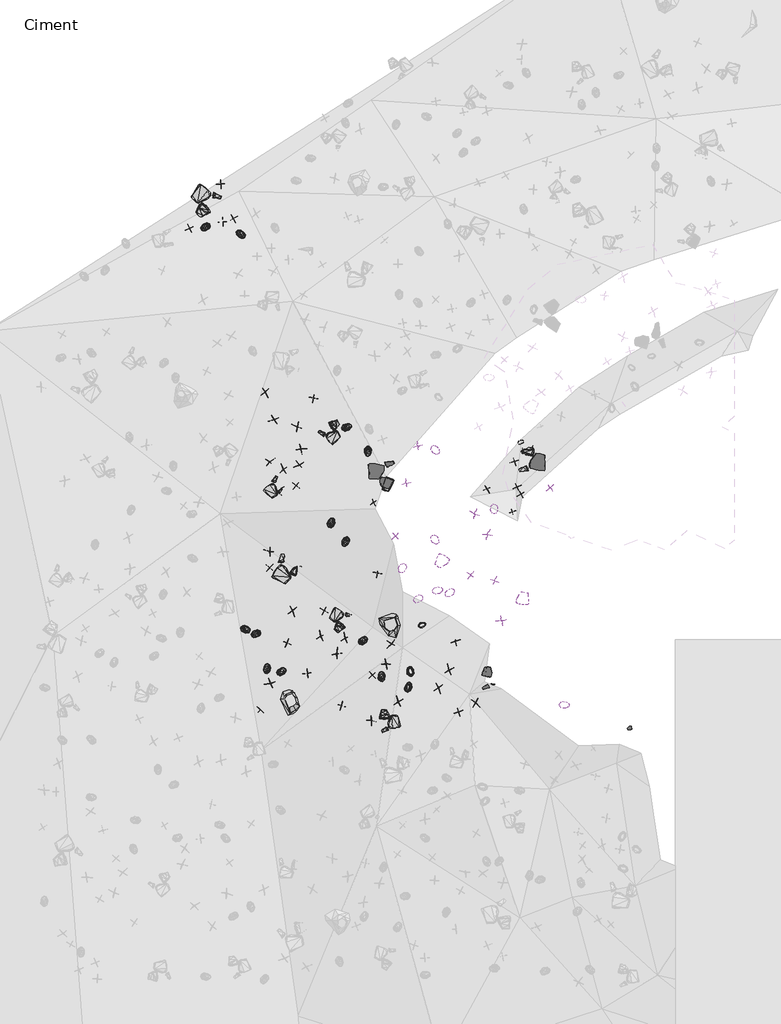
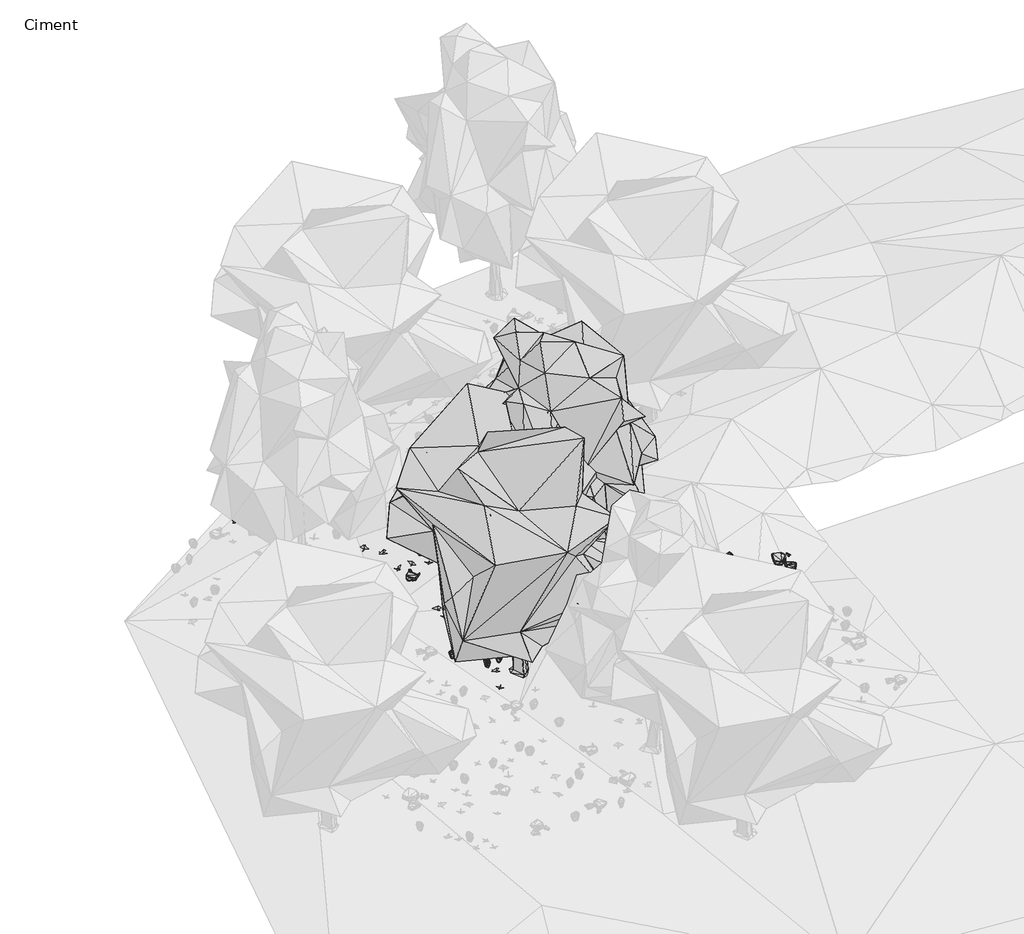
# One storey, part 21 of 30: 89 geographic elements.
"""IFC4 building model written with IfcOpenShell, lengths in millimetres."""

from ifc_helpers import new_model, si_unit, origin, place, context, project, spatial, transform, mapped, element, save
from components import enscape_assetdefinition_bush_025_fern_enscape_5718bf32, enscape_assetdefinition_bush_054_plant_09_version_2_enscape_7b546a12, enscape_assetdefinition_bush_062_plant_09_version_3_enscape_ccf8c8eb, enscape_assetdefinition_deciduous_tree_024_elm_enscape_8f9d8ef3, enscape_assetdefinition_deciduous_tree_029_elm_enscape_e4c49baf, enscape_assetdefinition_stone_013_group_enscape_516da325, enscape_assetdefinition_stone_013_group_enscape_db9b3e91

model = new_model("IFC4")

# Units and contexts
model_context = context("Model", 3, world=origin())
ifc_project = project(units=[si_unit("LENGTHUNIT", "METRE", prefix="MILLI")], contexts=[model_context])

# Site, building, storey
site = spatial("IfcSite", under=ifc_project)
building = spatial("IfcBuilding", under=site)
storey = spatial("IfcBuildingStorey", under=building, Name="Ciment", Elevation=-1500.0)

# Geographic elements
placement = place(None, origin())
enscape_assetdefinition_bush_025_fern_enscape_shape = enscape_assetdefinition_bush_025_fern_enscape_5718bf32(model_context)
element("IfcGeographicElement", 1, ObjectType="Enscape AssetDefinition - Bush 025 Fern : Enscape AssetDefinition - Bush 025 Fern", at=placement, inside=storey, context=model_context, shape_type="MappedRepresentation", body=[
    mapped(enscape_assetdefinition_bush_025_fern_enscape_shape, transform((-11638.1196976, 4541.864872, -223.0308056), x_axis=(-0.24635304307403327, -0.9691801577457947, 0.0), y_axis=(0.9691801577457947, -0.24635304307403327, 0.0), z_axis=(0.0, 0.0, 1.0))),
])
element("IfcGeographicElement", 2, ObjectType="Enscape AssetDefinition - Bush 025 Fern : Enscape AssetDefinition - Bush 025 Fern", at=placement, inside=storey, context=model_context, shape_type="MappedRepresentation", body=[
    mapped(enscape_assetdefinition_bush_025_fern_enscape_shape, transform((-11090.5303955, 3009.7484589, -382.9401731), x_axis=(0.9147308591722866, 0.4040636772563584, 0.0), y_axis=(-0.4040636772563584, 0.9147308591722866, 0.0), z_axis=(0.0, 0.0, 1.0))),
])
element("IfcGeographicElement", 3, ObjectType="Enscape AssetDefinition - Bush 025 Fern : Enscape AssetDefinition - Bush 025 Fern", at=placement, inside=storey, context=model_context, shape_type="MappedRepresentation", body=[
    mapped(enscape_assetdefinition_bush_025_fern_enscape_shape, transform((-13133.5659027, 8365.322113, -920.8834171), x_axis=(0.8603638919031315, 0.5096802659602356, 0.0), y_axis=(-0.5096802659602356, 0.8603638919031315, 0.0), z_axis=(0.0, 0.0, 1.0))),
])
element("IfcGeographicElement", 4, ObjectType="Enscape AssetDefinition - Bush 025 Fern : Enscape AssetDefinition - Bush 025 Fern", at=placement, inside=storey, context=model_context, shape_type="MappedRepresentation", body=[
    mapped(enscape_assetdefinition_bush_025_fern_enscape_shape, transform((-12569.9949265, 7704.8625946, -598.0372429), x_axis=(0.16812598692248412, -0.9857655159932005, 0.0), y_axis=(0.9857655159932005, 0.16812598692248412, 0.0), z_axis=(0.0, 0.0, 1.0))),
])
element("IfcGeographicElement", 5, ObjectType="Enscape AssetDefinition - Bush 025 Fern : Enscape AssetDefinition - Bush 025 Fern", at=placement, inside=storey, context=model_context, shape_type="MappedRepresentation", body=[
    mapped(enscape_assetdefinition_bush_025_fern_enscape_shape, transform((-10668.3654785, 3943.8591003, -231.1249971), x_axis=(0.900680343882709, 0.4344823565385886, 0.0), y_axis=(-0.4344823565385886, 0.900680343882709, 0.0), z_axis=(0.0, 0.0, 1.0))),
])
element("IfcGeographicElement", 6, ObjectType="Enscape AssetDefinition - Bush 025 Fern : Enscape AssetDefinition - Bush 025 Fern", at=placement, inside=storey, context=model_context, shape_type="MappedRepresentation", body=[
    mapped(enscape_assetdefinition_bush_025_fern_enscape_shape, transform((-15879.2867661, 2886.2705231, -1958.9015245), x_axis=(0.9770016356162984, -0.21323180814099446, 0.0), y_axis=(0.21323180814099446, 0.9770016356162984, 0.0), z_axis=(0.0, 0.0, 1.0))),
])
element("IfcGeographicElement", 7, ObjectType="Enscape AssetDefinition - Bush 025 Fern : Enscape AssetDefinition - Bush 025 Fern", at=placement, inside=storey, context=model_context, shape_type="MappedRepresentation", body=[
    mapped(enscape_assetdefinition_bush_025_fern_enscape_shape, transform((-11212.2249603, 3715.5036926, -297.8234291), x_axis=(-0.6952899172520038, -0.7187293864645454, 0.0), y_axis=(0.7187293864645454, -0.6952899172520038, 0.0), z_axis=(0.0, 0.0, 1.0))),
])
element("IfcGeographicElement", 8, ObjectType="Enscape AssetDefinition - Bush 025 Fern : Enscape AssetDefinition - Bush 025 Fern", at=placement, inside=storey, context=model_context, shape_type="MappedRepresentation", body=[
    mapped(enscape_assetdefinition_bush_025_fern_enscape_shape, transform((-10336.2998962, 3888.3247375, -216.1710262), x_axis=(0.632105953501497, 0.7748819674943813, 0.0), y_axis=(-0.7748819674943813, 0.632105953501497, 0.0), z_axis=(0.0, 0.0, 1.0))),
])
element("IfcGeographicElement", 9, ObjectType="Enscape AssetDefinition - Bush 025 Fern : Enscape AssetDefinition - Bush 025 Fern", at=placement, inside=storey, context=model_context, shape_type="MappedRepresentation", body=[
    mapped(enscape_assetdefinition_bush_025_fern_enscape_shape, transform((-16975.8300781, 13787.0645523, -2876.6665459), x_axis=(-0.7856103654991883, -0.6187215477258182, 0.0), y_axis=(0.6187215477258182, -0.7856103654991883, 0.0), z_axis=(0.0, 0.0, 1.0))),
])
element("IfcGeographicElement", 10, ObjectType="Enscape AssetDefinition - Bush 025 Fern : Enscape AssetDefinition - Bush 025 Fern", at=placement, inside=storey, context=model_context, shape_type="MappedRepresentation", body=[
    mapped(enscape_assetdefinition_bush_025_fern_enscape_shape, transform((-15608.7293625, 2770.6663609, -1889.3635273), x_axis=(-0.7920188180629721, -0.6104966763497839, 0.0), y_axis=(0.6104966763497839, -0.7920188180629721, 0.0), z_axis=(0.0, 0.0, 1.0))),
])
element("IfcGeographicElement", 11, ObjectType="Enscape AssetDefinition - Bush 025 Fern : Enscape AssetDefinition - Bush 025 Fern", at=placement, inside=storey, context=model_context, shape_type="MappedRepresentation", body=[
    mapped(enscape_assetdefinition_bush_025_fern_enscape_shape, transform((-12190.8473969, 1620.2697754, -739.0025854), x_axis=(-0.13337993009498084, 0.9910649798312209, 0.0), y_axis=(-0.9910649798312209, -0.13337993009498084, 0.0), z_axis=(0.0, 0.0, 1.0))),
])
element("IfcGeographicElement", 12, ObjectType="Enscape AssetDefinition - Bush 025 Fern : Enscape AssetDefinition - Bush 025 Fern", at=placement, inside=storey, context=model_context, shape_type="MappedRepresentation", body=[
    mapped(enscape_assetdefinition_bush_025_fern_enscape_shape, transform((-9148.2543945, 6143.3615685, -295.8436012), x_axis=(0.18891251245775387, -0.9819939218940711, 0.0), y_axis=(0.9819939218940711, 0.18891251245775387, 0.0), z_axis=(0.0, 0.0, 1.0))),
])
element("IfcGeographicElement", 13, ObjectType="Enscape AssetDefinition - Bush 025 Fern : Enscape AssetDefinition - Bush 025 Fern", at=placement, inside=storey, context=model_context, shape_type="MappedRepresentation", body=[
    mapped(enscape_assetdefinition_bush_025_fern_enscape_shape, transform((-10737.4744415, 7742.1350479, -123.6081123), x_axis=(0.7259865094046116, -0.6877089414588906, 0.0), y_axis=(0.6877089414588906, 0.7259865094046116, 0.0), z_axis=(0.0, 0.0, 1.0))),
])
element("IfcGeographicElement", 14, ObjectType="Enscape AssetDefinition - Bush 025 Fern : Enscape AssetDefinition - Bush 025 Fern", at=placement, inside=storey, context=model_context, shape_type="MappedRepresentation", body=[
    mapped(enscape_assetdefinition_bush_025_fern_enscape_shape, transform((-12692.2941208, 2590.3644562, -1071.7153549), x_axis=(0.6515939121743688, 0.7585679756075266, 0.0), y_axis=(-0.7585679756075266, 0.6515939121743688, 0.0), z_axis=(0.0, 0.0, 1.0))),
])
element("IfcGeographicElement", 15, ObjectType="Enscape AssetDefinition - Bush 025 Fern : Enscape AssetDefinition - Bush 025 Fern", at=placement, inside=storey, context=model_context, shape_type="MappedRepresentation", body=[
    mapped(enscape_assetdefinition_bush_025_fern_enscape_shape, transform((-11466.1960602, 1334.0778351, -589.1283751), x_axis=(0.18204377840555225, 0.9832904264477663, 0.0), y_axis=(-0.9832904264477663, 0.18204377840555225, 0.0), z_axis=(0.0, 0.0, 1.0))),
])
element("IfcGeographicElement", 16, ObjectType="Enscape AssetDefinition - Bush 025 Fern : Enscape AssetDefinition - Bush 025 Fern", at=placement, inside=storey, context=model_context, shape_type="MappedRepresentation", body=[
    mapped(enscape_assetdefinition_bush_025_fern_enscape_shape, transform((-15293.551445, 1834.1273069, -1846.912384), x_axis=(-0.011832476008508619, 0.9999299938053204, 0.0), y_axis=(-0.9999299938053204, -0.011832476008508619, 0.0), z_axis=(0.0, 0.0, 1.0))),
])
element("IfcGeographicElement", 17, ObjectType="Enscape AssetDefinition - Bush 025 Fern : Enscape AssetDefinition - Bush 025 Fern", at=placement, inside=storey, context=model_context, shape_type="MappedRepresentation", body=[
    mapped(enscape_assetdefinition_bush_025_fern_enscape_shape, transform((-13553.2474518, 5780.8337212, -850.2188921), x_axis=(0.1814762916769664, 0.9833953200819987, 0.0), y_axis=(-0.9833953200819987, 0.1814762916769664, 0.0), z_axis=(0.0, 0.0, 1.0))),
])
element("IfcGeographicElement", 18, ObjectType="Enscape AssetDefinition - Bush 025 Fern : Enscape AssetDefinition - Bush 025 Fern", at=placement, inside=storey, context=model_context, shape_type="MappedRepresentation", body=[
    mapped(enscape_assetdefinition_bush_025_fern_enscape_shape, transform((-8413.4521484, 7964.8332596, -311.1704588), x_axis=(0.9048403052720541, 0.4257511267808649, 0.0), y_axis=(-0.4257511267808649, 0.9048403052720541, 0.0), z_axis=(0.0, 0.0, 1.0))),
])
element("IfcGeographicElement", 19, ObjectType="Enscape AssetDefinition - Bush 025 Fern : Enscape AssetDefinition - Bush 025 Fern", at=placement, inside=storey, context=model_context, shape_type="MappedRepresentation", body=[
    mapped(enscape_assetdefinition_bush_025_fern_enscape_shape, transform((-11414.8960114, 1759.8763704, -545.861125), x_axis=(-0.30335058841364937, 0.9528790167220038, 0.0), y_axis=(-0.9528790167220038, -0.30335058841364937, 0.0), z_axis=(0.0, 0.0, 1.0))),
])
element("IfcGeographicElement", 20, ObjectType="Enscape AssetDefinition - Bush 025 Fern : Enscape AssetDefinition - Bush 025 Fern", at=placement, inside=storey, context=model_context, shape_type="MappedRepresentation", body=[
    mapped(enscape_assetdefinition_bush_025_fern_enscape_shape, transform((-10749.0777969, 5313.3511543, -55.5239916), x_axis=(0.5857704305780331, -0.8104770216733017, 0.0), y_axis=(0.8104770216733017, 0.5857704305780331, 0.0), z_axis=(0.0, 0.0, 1.0))),
])
element("IfcGeographicElement", 21, ObjectType="Enscape AssetDefinition - Bush 025 Fern : Enscape AssetDefinition - Bush 025 Fern", at=placement, inside=storey, context=model_context, shape_type="MappedRepresentation", body=[
    mapped(enscape_assetdefinition_bush_025_fern_enscape_shape, transform((-7237.8849983, 841.550827, -89.4165039), x_axis=(0.9980280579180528, 0.06276938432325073, 0.0), y_axis=(-0.06276938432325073, 0.9980280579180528, 0.0), z_axis=(0.0, 0.0, 1.0))),
])
element("IfcGeographicElement", 22, ObjectType="Enscape AssetDefinition - Bush 025 Fern : Enscape AssetDefinition - Bush 025 Fern", at=placement, inside=storey, context=model_context, shape_type="MappedRepresentation", body=[
    mapped(enscape_assetdefinition_bush_025_fern_enscape_shape, transform((-16005.6838989, 13585.8154297, -2682.0106506), x_axis=(0.8829453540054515, -0.46947577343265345, 0.0), y_axis=(0.46947577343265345, 0.8829453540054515, 0.0), z_axis=(0.0, 0.0, 1.0))),
])
element("IfcGeographicElement", 23, ObjectType="Enscape AssetDefinition - Bush 025 Fern : Enscape AssetDefinition - Bush 025 Fern", at=placement, inside=storey, context=model_context, shape_type="MappedRepresentation", body=[
    mapped(enscape_assetdefinition_bush_025_fern_enscape_shape, transform((-14899.8289108, 1750.6200075, -1741.645813), x_axis=(0.7998441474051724, 0.6002077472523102, 0.0), y_axis=(-0.6002077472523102, 0.7998441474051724, 0.0), z_axis=(0.0, 0.0, 1.0))),
])
element("IfcGeographicElement", 24, ObjectType="Enscape AssetDefinition - Bush 025 Fern : Enscape AssetDefinition - Bush 025 Fern", at=placement, inside=storey, context=model_context, shape_type="MappedRepresentation", body=[
    mapped(enscape_assetdefinition_bush_025_fern_enscape_shape, transform((-13175.6210327, 5259.3193054, -809.4972372), x_axis=(-0.3251526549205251, -0.9456615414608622, 0.0), y_axis=(0.9456615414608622, -0.3251526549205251, 0.0), z_axis=(0.0, 0.0, 1.0))),
])
enscape_assetdefinition_bush_054_plant_09_version_2_enscape_shape = enscape_assetdefinition_bush_054_plant_09_version_2_enscape_7b546a12(model_context)
element("IfcGeographicElement", 25, ObjectType="Enscape AssetDefinition - Bush 054 Plant 09, Version 2 : Enscape AssetDefinition - Bush 054 Plant 09, Version 2", at=placement, inside=storey, context=model_context, shape_type="MappedRepresentation", body=[
    mapped(enscape_assetdefinition_bush_054_plant_09_version_2_enscape_shape, transform((-16555.5934906, 14944.6992874, -2999.9995232), x_axis=(0.9948430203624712, 0.1014266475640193, 0.0), y_axis=(-0.1014266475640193, 0.9948430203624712, 0.0), z_axis=(0.0, 0.0, 1.0))),
])
element("IfcGeographicElement", 26, ObjectType="Enscape AssetDefinition - Bush 054 Plant 09, Version 2 : Enscape AssetDefinition - Bush 054 Plant 09, Version 2", at=placement, inside=storey, context=model_context, shape_type="MappedRepresentation", body=[
    mapped(enscape_assetdefinition_bush_054_plant_09_version_2_enscape_shape, transform((-17399.0974426, 13746.1414337, -2927.5593758), x_axis=(0.891467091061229, 0.4530854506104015, 0.0), y_axis=(-0.4530854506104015, 0.891467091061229, 0.0), z_axis=(0.0, 0.0, 1.0))),
])
element("IfcGeographicElement", 27, ObjectType="Enscape AssetDefinition - Bush 054 Plant 09, Version 2 : Enscape AssetDefinition - Bush 054 Plant 09, Version 2", at=placement, inside=storey, context=model_context, shape_type="MappedRepresentation", body=[
    mapped(enscape_assetdefinition_bush_054_plant_09_version_2_enscape_shape, transform((-10103.2600403, 652.9922485, -558.287859), x_axis=(-0.3648329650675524, 0.9310729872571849, 0.0), y_axis=(-0.9310729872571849, -0.3648329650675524, 0.0), z_axis=(0.0, 0.0, 1.0))),
])
element("IfcGeographicElement", 28, ObjectType="Enscape AssetDefinition - Bush 054 Plant 09, Version 2 : Enscape AssetDefinition - Bush 054 Plant 09, Version 2", at=placement, inside=storey, context=model_context, shape_type="MappedRepresentation", body=[
    mapped(enscape_assetdefinition_bush_054_plant_09_version_2_enscape_shape, transform((-15233.1037521, 4560.1158142, -1699.0650892), x_axis=(0.7821400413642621, -0.6231026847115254, 0.0), y_axis=(0.6231026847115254, 0.7821400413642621, 0.0), z_axis=(0.0, 0.0, 1.0))),
])
element("IfcGeographicElement", 29, ObjectType="Enscape AssetDefinition - Bush 054 Plant 09, Version 2 : Enscape AssetDefinition - Bush 054 Plant 09, Version 2", at=placement, inside=storey, context=model_context, shape_type="MappedRepresentation", body=[
    mapped(enscape_assetdefinition_bush_054_plant_09_version_2_enscape_shape, transform((-14038.4750366, 9147.3197937, -1400.3118277), x_axis=(0.12002277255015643, 0.9927711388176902, 0.0), y_axis=(-0.9927711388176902, 0.12002277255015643, 0.0), z_axis=(0.0, 0.0, 1.0))),
])
element("IfcGeographicElement", 30, ObjectType="Enscape AssetDefinition - Bush 054 Plant 09, Version 2 : Enscape AssetDefinition - Bush 054 Plant 09, Version 2", at=placement, inside=storey, context=model_context, shape_type="MappedRepresentation", body=[
    mapped(enscape_assetdefinition_bush_054_plant_09_version_2_enscape_shape, transform((-8588.8900757, 7437.669754, -366.4653301), x_axis=(-0.3494669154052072, 0.9369487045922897, 0.0), y_axis=(-0.9369487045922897, -0.3494669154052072, 0.0), z_axis=(0.0, 0.0, 1.0))),
])
element("IfcGeographicElement", 31, ObjectType="Enscape AssetDefinition - Bush 054 Plant 09, Version 2 : Enscape AssetDefinition - Bush 054 Plant 09, Version 2", at=placement, inside=storey, context=model_context, shape_type="MappedRepresentation", body=[
    mapped(enscape_assetdefinition_bush_054_plant_09_version_2_enscape_shape, transform((-14507.4453354, 6780.9333801, -1261.0417604), x_axis=(0.5905984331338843, 0.8069656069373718, 0.0), y_axis=(-0.8069656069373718, 0.5905984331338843, 0.0), z_axis=(0.0, 0.0, 1.0))),
])
element("IfcGeographicElement", 32, ObjectType="Enscape AssetDefinition - Bush 054 Plant 09, Version 2 : Enscape AssetDefinition - Bush 054 Plant 09, Version 2", at=placement, inside=storey, context=model_context, shape_type="MappedRepresentation", body=[
    mapped(enscape_assetdefinition_bush_054_plant_09_version_2_enscape_shape, transform((-8411.9548798, 6551.7253876, -354.6613455), x_axis=(-0.5446772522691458, 0.8386457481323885, 0.0), y_axis=(-0.8386457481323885, -0.5446772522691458, 0.0), z_axis=(0.0, 0.0, 1.0))),
])
element("IfcGeographicElement", 33, ObjectType="Enscape AssetDefinition - Bush 054 Plant 09, Version 2 : Enscape AssetDefinition - Bush 054 Plant 09, Version 2", at=placement, inside=storey, context=model_context, shape_type="MappedRepresentation", body=[
    mapped(enscape_assetdefinition_bush_054_plant_09_version_2_enscape_shape, transform((-15477.8966904, 720.9014893, -1951.6050816), x_axis=(-0.6479898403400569, -0.7616489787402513, 0.0), y_axis=(0.7616489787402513, -0.6479898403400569, 0.0), z_axis=(0.0, 0.0, 1.0))),
])
element("IfcGeographicElement", 34, ObjectType="Enscape AssetDefinition - Bush 054 Plant 09, Version 2 : Enscape AssetDefinition - Bush 054 Plant 09, Version 2", at=placement, inside=storey, context=model_context, shape_type="MappedRepresentation", body=[
    mapped(enscape_assetdefinition_bush_054_plant_09_version_2_enscape_shape, transform((-13746.8767166, 3392.9765224, -1342.6638842), x_axis=(0.4184931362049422, 0.9082199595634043, 0.0), y_axis=(-0.9082199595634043, 0.4184931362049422, 0.0), z_axis=(0.0, 0.0, 1.0))),
])
element("IfcGeographicElement", 35, ObjectType="Enscape AssetDefinition - Bush 054 Plant 09, Version 2 : Enscape AssetDefinition - Bush 054 Plant 09, Version 2", at=placement, inside=storey, context=model_context, shape_type="MappedRepresentation", body=[
    mapped(enscape_assetdefinition_bush_054_plant_09_version_2_enscape_shape, transform((-14750.3213882, 2523.6053467, -1662.9818678), x_axis=(-0.9413865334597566, 0.3373298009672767, 0.0), y_axis=(-0.3373298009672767, -0.9413865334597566, 0.0), z_axis=(0.0, 0.0, 1.0))),
])
element("IfcGeographicElement", 36, ObjectType="Enscape AssetDefinition - Bush 054 Plant 09, Version 2 : Enscape AssetDefinition - Bush 054 Plant 09, Version 2", at=placement, inside=storey, context=model_context, shape_type="MappedRepresentation", body=[
    mapped(enscape_assetdefinition_bush_054_plant_09_version_2_enscape_shape, transform((-16498.9624023, 13922.1611023, -2842.8559303), x_axis=(0.9959632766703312, 0.08976163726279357, 0.0), y_axis=(-0.08976163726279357, 0.9959632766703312, 0.0), z_axis=(0.0, 0.0, 1.0))),
])
element("IfcGeographicElement", 37, ObjectType="Enscape AssetDefinition - Bush 054 Plant 09, Version 2 : Enscape AssetDefinition - Bush 054 Plant 09, Version 2", at=placement, inside=storey, context=model_context, shape_type="MappedRepresentation", body=[
    mapped(enscape_assetdefinition_bush_054_plant_09_version_2_enscape_shape, transform((-16207.7026367, 14022.2568512, -2826.8532753), x_axis=(-0.8366235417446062, -0.5477782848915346, 0.0), y_axis=(0.5477782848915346, -0.8366235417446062, 0.0), z_axis=(0.0, 0.0, 1.0))),
])
element("IfcGeographicElement", 38, ObjectType="Enscape AssetDefinition - Bush 054 Plant 09, Version 2 : Enscape AssetDefinition - Bush 054 Plant 09, Version 2", at=placement, inside=storey, context=model_context, shape_type="MappedRepresentation", body=[
    mapped(enscape_assetdefinition_bush_054_plant_09_version_2_enscape_shape, transform((-11820.1847076, 5416.6183472, -236.6931438), x_axis=(0.6847195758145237, 0.7288066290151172, 0.0), y_axis=(-0.7288066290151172, 0.6847195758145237, 0.0), z_axis=(0.0, 0.0, 1.0))),
])
element("IfcGeographicElement", 39, ObjectType="Enscape AssetDefinition - Bush 054 Plant 09, Version 2 : Enscape AssetDefinition - Bush 054 Plant 09, Version 2", at=placement, inside=storey, context=model_context, shape_type="MappedRepresentation", body=[
    mapped(enscape_assetdefinition_bush_054_plant_09_version_2_enscape_shape, transform((-13274.6353149, 829.492569, -1163.4473801), x_axis=(-0.9716901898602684, 0.23625870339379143, 0.0), y_axis=(-0.23625870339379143, -0.9716901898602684, 0.0), z_axis=(0.0, 0.0, 1.0))),
])
element("IfcGeographicElement", 40, ObjectType="Enscape AssetDefinition - Bush 054 Plant 09, Version 2 : Enscape AssetDefinition - Bush 054 Plant 09, Version 2", at=placement, inside=storey, context=model_context, shape_type="MappedRepresentation", body=[
    mapped(enscape_assetdefinition_bush_054_plant_09_version_2_enscape_shape, transform((-11531.3873291, 6848.6089706, -124.4876385), x_axis=(0.21883534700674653, -0.9757618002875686, 0.0), y_axis=(0.9757618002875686, 0.21883534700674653, 0.0), z_axis=(0.0, 0.0, 1.0))),
])
element("IfcGeographicElement", 41, ObjectType="Enscape AssetDefinition - Bush 054 Plant 09, Version 2 : Enscape AssetDefinition - Bush 054 Plant 09, Version 2", at=placement, inside=storey, context=model_context, shape_type="MappedRepresentation", body=[
    mapped(enscape_assetdefinition_bush_054_plant_09_version_2_enscape_shape, transform((-12442.6078796, 1647.9854584, -826.6810179), x_axis=(0.697429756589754, 0.7166531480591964, 0.0), y_axis=(-0.7166531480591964, 0.697429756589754, 0.0), z_axis=(0.0, 0.0, 1.0))),
])
element("IfcGeographicElement", 42, ObjectType="Enscape AssetDefinition - Bush 054 Plant 09, Version 2 : Enscape AssetDefinition - Bush 054 Plant 09, Version 2", at=placement, inside=storey, context=model_context, shape_type="MappedRepresentation", body=[
    mapped(enscape_assetdefinition_bush_054_plant_09_version_2_enscape_shape, transform((-12307.0678711, 4406.8279266, -642.8762674), x_axis=(0.08979928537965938, 0.9959598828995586, 0.0), y_axis=(-0.9959598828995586, 0.08979928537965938, 0.0), z_axis=(0.0, 0.0, 1.0))),
])
element("IfcGeographicElement", 43, ObjectType="Enscape AssetDefinition - Bush 054 Plant 09, Version 2 : Enscape AssetDefinition - Bush 054 Plant 09, Version 2", at=placement, inside=storey, context=model_context, shape_type="MappedRepresentation", body=[
    mapped(enscape_assetdefinition_bush_054_plant_09_version_2_enscape_shape, transform((-14210.0486755, 1696.5867281, -1552.7870655), x_axis=(0.9884651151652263, 0.15144872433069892, 0.0), y_axis=(-0.15144872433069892, 0.9884651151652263, 0.0), z_axis=(0.0, 0.0, 1.0))),
])
element("IfcGeographicElement", 44, ObjectType="Enscape AssetDefinition - Bush 054 Plant 09, Version 2 : Enscape AssetDefinition - Bush 054 Plant 09, Version 2", at=placement, inside=storey, context=model_context, shape_type="MappedRepresentation", body=[
    mapped(enscape_assetdefinition_bush_054_plant_09_version_2_enscape_shape, transform((-8533.290863, 6747.926712, -492.5101995), x_axis=(0.44135337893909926, -0.8973333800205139, 0.0), y_axis=(0.8973333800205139, 0.44135337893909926, 0.0), z_axis=(0.0, 0.0, 1.0))),
])
element("IfcGeographicElement", 45, ObjectType="Enscape AssetDefinition - Bush 054 Plant 09, Version 2 : Enscape AssetDefinition - Bush 054 Plant 09, Version 2", at=placement, inside=storey, context=model_context, shape_type="MappedRepresentation", body=[
    mapped(enscape_assetdefinition_bush_054_plant_09_version_2_enscape_shape, transform((-11220.6163406, 7858.2677841, -271.4035511), x_axis=(0.24116420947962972, -0.9704843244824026, 0.0), y_axis=(0.9704843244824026, 0.24116420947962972, 0.0), z_axis=(0.0, 0.0, 1.0))),
])
element("IfcGeographicElement", 46, ObjectType="Enscape AssetDefinition - Bush 054 Plant 09, Version 2 : Enscape AssetDefinition - Bush 054 Plant 09, Version 2", at=placement, inside=storey, context=model_context, shape_type="MappedRepresentation", body=[
    mapped(enscape_assetdefinition_bush_054_plant_09_version_2_enscape_shape, transform((-8660.5195999, 6077.1317482, -339.7482634), x_axis=(0.3685158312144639, -0.9296214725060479, 0.0), y_axis=(0.9296214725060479, 0.3685158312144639, 0.0), z_axis=(0.0, 0.0, 1.0))),
])
element("IfcGeographicElement", 47, ObjectType="Enscape AssetDefinition - Bush 054 Plant 09, Version 2 : Enscape AssetDefinition - Bush 054 Plant 09, Version 2", at=placement, inside=storey, context=model_context, shape_type="MappedRepresentation", body=[
    mapped(enscape_assetdefinition_bush_054_plant_09_version_2_enscape_shape, transform((-7621.5438843, 6729.631424, -55.2734137), x_axis=(-0.6864525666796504, 0.7271745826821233, 0.0), y_axis=(-0.7271745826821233, -0.6864525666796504, 0.0), z_axis=(0.0, 0.0, 1.0))),
])
element("IfcGeographicElement", 48, ObjectType="Enscape AssetDefinition - Bush 054 Plant 09, Version 2 : Enscape AssetDefinition - Bush 054 Plant 09, Version 2", at=placement, inside=storey, context=model_context, shape_type="MappedRepresentation", body=[
    mapped(enscape_assetdefinition_bush_054_plant_09_version_2_enscape_shape, transform((-9784.910202, 4363.7065887, -116.314888), x_axis=(0.8241000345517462, -0.5664442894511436, 0.0), y_axis=(0.5664442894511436, 0.8241000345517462, 0.0), z_axis=(0.0, 0.0, 1.0))),
])
element("IfcGeographicElement", 49, ObjectType="Enscape AssetDefinition - Bush 054 Plant 09, Version 2 : Enscape AssetDefinition - Bush 054 Plant 09, Version 2", at=placement, inside=storey, context=model_context, shape_type="MappedRepresentation", body=[
    mapped(enscape_assetdefinition_bush_054_plant_09_version_2_enscape_shape, transform((-9132.7571869, 4211.2541199, -92.6810503), x_axis=(-0.3064405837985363, -0.9518897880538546, 0.0), y_axis=(0.9518897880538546, -0.3064405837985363, 0.0), z_axis=(0.0, 0.0, 1.0))),
])
enscape_assetdefinition_bush_062_plant_09_version_3_enscape_shape = enscape_assetdefinition_bush_062_plant_09_version_3_enscape_ccf8c8eb(model_context)
element("IfcGeographicElement", 50, ObjectType="Enscape AssetDefinition - Bush 062 Plant 09, Version 3 : Enscape AssetDefinition - Bush 062 Plant 09, Version 3", at=placement, inside=storey, context=model_context, shape_type="MappedRepresentation", body=[
    mapped(enscape_assetdefinition_bush_062_plant_09_version_3_enscape_shape, transform((-9679.5406342, 6021.5015411, -201.0918856), x_axis=(0.14841383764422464, 0.9889253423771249, 0.0), y_axis=(-0.9889253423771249, 0.14841383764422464, 0.0), z_axis=(0.0, 0.0, 1.0))),
])
element("IfcGeographicElement", 51, ObjectType="Enscape AssetDefinition - Bush 062 Plant 09, Version 3 : Enscape AssetDefinition - Bush 062 Plant 09, Version 3", at=placement, inside=storey, context=model_context, shape_type="MappedRepresentation", body=[
    mapped(enscape_assetdefinition_bush_062_plant_09_version_3_enscape_shape, transform((-12422.37854, 6340.0859833, -346.7519283), x_axis=(0.7265082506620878, 0.6871577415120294, 0.0), y_axis=(-0.6871577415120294, 0.7265082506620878, 0.0), z_axis=(0.0, 0.0, 1.0))),
])
element("IfcGeographicElement", 52, ObjectType="Enscape AssetDefinition - Bush 062 Plant 09, Version 3 : Enscape AssetDefinition - Bush 062 Plant 09, Version 3", at=placement, inside=storey, context=model_context, shape_type="MappedRepresentation", body=[
    mapped(enscape_assetdefinition_bush_062_plant_09_version_3_enscape_shape, transform((-13185.1043701, 2665.2317047, -1221.7283249), x_axis=(0.8188364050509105, 0.5740269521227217, 0.0), y_axis=(-0.5740269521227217, 0.8188364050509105, 0.0), z_axis=(0.0, 0.0, 1.0))),
])
element("IfcGeographicElement", 53, ObjectType="Enscape AssetDefinition - Bush 062 Plant 09, Version 3 : Enscape AssetDefinition - Bush 062 Plant 09, Version 3", at=placement, inside=storey, context=model_context, shape_type="MappedRepresentation", body=[
    mapped(enscape_assetdefinition_bush_062_plant_09_version_3_enscape_shape, transform((-15213.9072418, 7434.8526001, -1641.4033175), x_axis=(0.8617284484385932, -0.5073697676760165, 0.0), y_axis=(0.5073697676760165, 0.8617284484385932, 0.0), z_axis=(0.0, 0.0, 1.0))),
])
element("IfcGeographicElement", 54, ObjectType="Enscape AssetDefinition - Bush 062 Plant 09, Version 3 : Enscape AssetDefinition - Bush 062 Plant 09, Version 3", at=placement, inside=storey, context=model_context, shape_type="MappedRepresentation", body=[
    mapped(enscape_assetdefinition_bush_062_plant_09_version_3_enscape_shape, transform((-10371.3579178, 1801.0311127, -468.3735371), x_axis=(0.8029956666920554, 0.5959848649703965, 0.0), y_axis=(-0.5959848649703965, 0.8029956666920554, 0.0), z_axis=(0.0, 0.0, 1.0))),
])
element("IfcGeographicElement", 55, ObjectType="Enscape AssetDefinition - Bush 062 Plant 09, Version 3 : Enscape AssetDefinition - Bush 062 Plant 09, Version 3", at=placement, inside=storey, context=model_context, shape_type="MappedRepresentation", body=[
    mapped(enscape_assetdefinition_bush_062_plant_09_version_3_enscape_shape, transform((-12453.0677795, 420.6695259, -893.7722445), x_axis=(0.16392076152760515, -0.9864735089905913, 0.0), y_axis=(0.9864735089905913, 0.16392076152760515, 0.0), z_axis=(0.0, 0.0, 1.0))),
])
element("IfcGeographicElement", 56, ObjectType="Enscape AssetDefinition - Bush 062 Plant 09, Version 3 : Enscape AssetDefinition - Bush 062 Plant 09, Version 3", at=placement, inside=storey, context=model_context, shape_type="MappedRepresentation", body=[
    mapped(enscape_assetdefinition_bush_062_plant_09_version_3_enscape_shape, transform((-9327.7931213, 6710.8440399, -348.2284546), x_axis=(0.6084893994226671, -0.7935620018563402, 0.0), y_axis=(0.7935620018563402, 0.6084893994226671, 0.0), z_axis=(0.0, 0.0, 1.0))),
])
element("IfcGeographicElement", 57, ObjectType="Enscape AssetDefinition - Bush 062 Plant 09, Version 3 : Enscape AssetDefinition - Bush 062 Plant 09, Version 3", at=placement, inside=storey, context=model_context, shape_type="MappedRepresentation", body=[
    mapped(enscape_assetdefinition_bush_062_plant_09_version_3_enscape_shape, transform((-13843.044281, 2717.8783417, -1401.8163681), x_axis=(0.8168801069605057, 0.5768074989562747, 0.0), y_axis=(-0.5768074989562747, 0.8168801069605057, 0.0), z_axis=(0.0, 0.0, 1.0))),
])
element("IfcGeographicElement", 58, ObjectType="Enscape AssetDefinition - Bush 062 Plant 09, Version 3 : Enscape AssetDefinition - Bush 062 Plant 09, Version 3", at=placement, inside=storey, context=model_context, shape_type="MappedRepresentation", body=[
    mapped(enscape_assetdefinition_bush_062_plant_09_version_3_enscape_shape, transform((-14489.3331528, 8377.7122498, -1477.011919), x_axis=(0.06356847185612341, 0.9979774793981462, 0.0), y_axis=(-0.9979774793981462, 0.06356847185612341, 0.0), z_axis=(0.0, 0.0, 1.0))),
])
element("IfcGeographicElement", 59, ObjectType="Enscape AssetDefinition - Bush 062 Plant 09, Version 3 : Enscape AssetDefinition - Bush 062 Plant 09, Version 3", at=placement, inside=storey, context=model_context, shape_type="MappedRepresentation", body=[
    mapped(enscape_assetdefinition_bush_062_plant_09_version_3_enscape_shape, transform((-15237.2512817, 5005.7411194, -1678.789854), x_axis=(-0.09850562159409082, 0.995136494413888, 0.0), y_axis=(-0.995136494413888, -0.09850562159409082, 0.0), z_axis=(0.0, 0.0, 1.0))),
])
element("IfcGeographicElement", 60, ObjectType="Enscape AssetDefinition - Bush 062 Plant 09, Version 3 : Enscape AssetDefinition - Bush 062 Plant 09, Version 3", at=placement, inside=storey, context=model_context, shape_type="MappedRepresentation", body=[
    mapped(enscape_assetdefinition_bush_062_plant_09_version_3_enscape_shape, transform((-12054.9201965, 1958.6029053, -673.4170914), x_axis=(0.28370646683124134, -0.9589111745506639, 0.0), y_axis=(0.9589111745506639, 0.28370646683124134, 0.0), z_axis=(0.0, 0.0, 1.0))),
])
element("IfcGeographicElement", 61, ObjectType="Enscape AssetDefinition - Bush 062 Plant 09, Version 3 : Enscape AssetDefinition - Bush 062 Plant 09, Version 3", at=placement, inside=storey, context=model_context, shape_type="MappedRepresentation", body=[
    mapped(enscape_assetdefinition_bush_062_plant_09_version_3_enscape_shape, transform((-14433.4669113, 7336.9050026, -1308.5669279), x_axis=(-0.7107508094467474, 0.703443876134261, 0.0), y_axis=(-0.703443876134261, -0.7107508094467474, 0.0), z_axis=(0.0, 0.0, 1.0))),
])
element("IfcGeographicElement", 62, ObjectType="Enscape AssetDefinition - Bush 062 Plant 09, Version 3 : Enscape AssetDefinition - Bush 062 Plant 09, Version 3", at=placement, inside=storey, context=model_context, shape_type="MappedRepresentation", body=[
    mapped(enscape_assetdefinition_bush_062_plant_09_version_3_enscape_shape, transform((-15342.4263, 9308.3190918, -1956.0413361), x_axis=(-0.6734366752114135, -0.7392449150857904, 0.0), y_axis=(0.7392449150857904, -0.6734366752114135, 0.0), z_axis=(0.0, 0.0, 1.0))),
])
element("IfcGeographicElement", 63, ObjectType="Enscape AssetDefinition - Bush 062 Plant 09, Version 3 : Enscape AssetDefinition - Bush 062 Plant 09, Version 3", at=placement, inside=storey, context=model_context, shape_type="MappedRepresentation", body=[
    mapped(enscape_assetdefinition_bush_062_plant_09_version_3_enscape_shape, transform((-14368.5445786, 7782.7310562, -1344.3863392), x_axis=(0.3623310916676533, -0.9320494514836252, 0.0), y_axis=(0.9320494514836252, 0.3623310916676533, 0.0), z_axis=(0.0, 0.0, 1.0))),
])
element("IfcGeographicElement", 64, ObjectType="Enscape AssetDefinition - Bush 062 Plant 09, Version 3 : Enscape AssetDefinition - Bush 062 Plant 09, Version 3", at=placement, inside=storey, context=model_context, shape_type="MappedRepresentation", body=[
    mapped(enscape_assetdefinition_bush_062_plant_09_version_3_enscape_shape, transform((-14859.4741821, 7234.621048, -1468.4591293), x_axis=(0.693156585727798, 0.7207870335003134, 0.0), y_axis=(-0.7207870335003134, 0.693156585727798, 0.0), z_axis=(0.0, 0.0, 1.0))),
])
element("IfcGeographicElement", 65, ObjectType="Enscape AssetDefinition - Bush 062 Plant 09, Version 3 : Enscape AssetDefinition - Bush 062 Plant 09, Version 3", at=placement, inside=storey, context=model_context, shape_type="MappedRepresentation", body=[
    mapped(enscape_assetdefinition_bush_062_plant_09_version_3_enscape_shape, transform((-15219.8162079, 1426.4450073, -1846.0482359), x_axis=(-0.5072144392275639, 0.8618198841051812, 0.0), y_axis=(-0.8618198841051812, -0.5072144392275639, 0.0), z_axis=(0.0, 0.0, 1.0))),
])
element("IfcGeographicElement", 66, ObjectType="Enscape AssetDefinition - Bush 062 Plant 09, Version 3 : Enscape AssetDefinition - Bush 062 Plant 09, Version 3", at=placement, inside=storey, context=model_context, shape_type="MappedRepresentation", body=[
    mapped(enscape_assetdefinition_bush_062_plant_09_version_3_enscape_shape, transform((-9635.8394623, 895.8702087, -520.229578), x_axis=(-0.38079141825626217, -0.9246609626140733, 0.0), y_axis=(0.9246609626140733, -0.38079141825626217, 0.0), z_axis=(0.0, 0.0, 1.0))),
])
element("IfcGeographicElement", 67, ObjectType="Enscape AssetDefinition - Bush 062 Plant 09, Version 3 : Enscape AssetDefinition - Bush 062 Plant 09, Version 3", at=placement, inside=storey, context=model_context, shape_type="MappedRepresentation", body=[
    mapped(enscape_assetdefinition_bush_062_plant_09_version_3_enscape_shape, transform((-11746.7823029, 945.2552795, -643.8595057), x_axis=(0.790494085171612, 0.6124696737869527, 0.0), y_axis=(-0.6124696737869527, 0.790494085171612, 0.0), z_axis=(0.0, 0.0, 1.0))),
])
element("IfcGeographicElement", 68, ObjectType="Enscape AssetDefinition - Bush 062 Plant 09, Version 3 : Enscape AssetDefinition - Bush 062 Plant 09, Version 3", at=placement, inside=storey, context=model_context, shape_type="MappedRepresentation", body=[
    mapped(enscape_assetdefinition_bush_062_plant_09_version_3_enscape_shape, transform((-11933.3381653, 2490.814209, -669.7694063), x_axis=(-0.9119138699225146, 0.41038164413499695, 0.0), y_axis=(-0.41038164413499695, -0.9119138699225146, 0.0), z_axis=(0.0, 0.0, 1.0))),
])
element("IfcGeographicElement", 69, ObjectType="Enscape AssetDefinition - Bush 062 Plant 09, Version 3 : Enscape AssetDefinition - Bush 062 Plant 09, Version 3", at=placement, inside=storey, context=model_context, shape_type="MappedRepresentation", body=[
    mapped(enscape_assetdefinition_bush_062_plant_09_version_3_enscape_shape, transform((-10200.2105713, 2588.262558, -364.8289442), x_axis=(0.9122611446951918, 0.40960908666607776, 0.0), y_axis=(-0.40960908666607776, 0.9122611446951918, 0.0), z_axis=(0.0, 0.0, 1.0))),
])
element("IfcGeographicElement", 70, ObjectType="Enscape AssetDefinition - Bush 062 Plant 09, Version 3 : Enscape AssetDefinition - Bush 062 Plant 09, Version 3", at=placement, inside=storey, context=model_context, shape_type="MappedRepresentation", body=[
    mapped(enscape_assetdefinition_bush_062_plant_09_version_3_enscape_shape, transform((-10649.7411728, 1301.2695313, -539.0393734), x_axis=(-0.7528516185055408, -0.658190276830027, 0.0), y_axis=(0.658190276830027, -0.7528516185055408, 0.0), z_axis=(0.0, 0.0, 1.0))),
])
element("IfcGeographicElement", 71, ObjectType="Enscape AssetDefinition - Bush 062 Plant 09, Version 3 : Enscape AssetDefinition - Bush 062 Plant 09, Version 3", at=placement, inside=storey, context=model_context, shape_type="MappedRepresentation", body=[
    mapped(enscape_assetdefinition_bush_062_plant_09_version_3_enscape_shape, transform((-13407.8979492, 2247.133255, -1303.6699295), x_axis=(0.9635182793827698, 0.26764253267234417, 0.0), y_axis=(-0.26764253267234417, 0.9635182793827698, 0.0), z_axis=(0.0, 0.0, 1.0))),
])
element("IfcGeographicElement", 72, ObjectType="Enscape AssetDefinition - Bush 062 Plant 09, Version 3 : Enscape AssetDefinition - Bush 062 Plant 09, Version 3", at=placement, inside=storey, context=model_context, shape_type="MappedRepresentation", body=[
    mapped(enscape_assetdefinition_bush_062_plant_09_version_3_enscape_shape, transform((-9323.7266541, 5465.7211304, -110.3719473), x_axis=(0.9996939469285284, -0.02473888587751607, 0.0), y_axis=(0.02473888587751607, 0.9996939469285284, 0.0), z_axis=(0.0, 0.0, 1.0))),
])
element("IfcGeographicElement", 73, ObjectType="Enscape AssetDefinition - Bush 062 Plant 09, Version 3 : Enscape AssetDefinition - Bush 062 Plant 09, Version 3", at=placement, inside=storey, context=model_context, shape_type="MappedRepresentation", body=[
    mapped(enscape_assetdefinition_bush_062_plant_09_version_3_enscape_shape, transform((-15119.5325851, 8564.5027161, -1760.8418465), x_axis=(-0.5963634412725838, 0.802714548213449, 0.0), y_axis=(-0.802714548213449, -0.5963634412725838, 0.0), z_axis=(0.0, 0.0, 1.0))),
])
element("IfcGeographicElement", 74, ObjectType="Enscape AssetDefinition - Bush 062 Plant 09, Version 3 : Enscape AssetDefinition - Bush 062 Plant 09, Version 3", at=placement, inside=storey, context=model_context, shape_type="MappedRepresentation", body=[
    mapped(enscape_assetdefinition_bush_062_plant_09_version_3_enscape_shape, transform((-8955.8391571, 3122.8752136, -172.9756594), x_axis=(-0.3669234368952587, 0.9302511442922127, 0.0), y_axis=(-0.9302511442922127, -0.3669234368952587, 0.0), z_axis=(0.0, 0.0, 1.0))),
])
element("IfcGeographicElement", 75, ObjectType="Enscape AssetDefinition - Bush 062 Plant 09, Version 3 : Enscape AssetDefinition - Bush 062 Plant 09, Version 3", at=placement, inside=storey, context=model_context, shape_type="MappedRepresentation", body=[
    mapped(enscape_assetdefinition_bush_062_plant_09_version_3_enscape_shape, transform((-14604.0325165, 3387.6972198, -1580.8303356), x_axis=(-0.7457657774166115, -0.6662082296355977, 0.0), y_axis=(0.6662082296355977, -0.7457657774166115, 0.0), z_axis=(0.0, 0.0, 1.0))),
])
enscape_assetdefinition_deciduous_tree_024_elm_enscape_shape = enscape_assetdefinition_deciduous_tree_024_elm_enscape_8f9d8ef3(model_context)
element("IfcGeographicElement", 76, ObjectType="Enscape AssetDefinition - Deciduous Tree 024 Elm : Enscape AssetDefinition - Deciduous Tree 024 Elm", at=placement, inside=storey, context=model_context, shape_type="MappedRepresentation", body=[
    mapped(enscape_assetdefinition_deciduous_tree_024_elm_enscape_shape, transform((-11831.9234848, 2968.5173035, -568.6879158), x_axis=(0.23001623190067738, 0.9731867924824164, 0.0), y_axis=(-0.9731867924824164, 0.23001623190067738, 0.0), z_axis=(0.0, 0.0, 1.0))),
])
enscape_assetdefinition_deciduous_tree_029_elm_enscape_shape = enscape_assetdefinition_deciduous_tree_029_elm_enscape_e4c49baf(model_context)
element("IfcGeographicElement", 77, ObjectType="Enscape AssetDefinition - Deciduous Tree 029 Elm : Enscape AssetDefinition - Deciduous Tree 029 Elm", at=placement, inside=storey, context=model_context, shape_type="MappedRepresentation", body=[
    mapped(enscape_assetdefinition_deciduous_tree_029_elm_enscape_shape, transform((-14641.9563293, 914.5965576, -1710.269928), x_axis=(1.0, 0.0, 0.0), y_axis=(0.0, 1.0, 0.0), z_axis=(0.0, 0.0, 1.0))),
])
enscape_assetdefinition_stone_013_group_enscape_shape = enscape_assetdefinition_stone_013_group_enscape_516da325(model_context)
element("IfcGeographicElement", 78, ObjectType="Enscape AssetDefinition - Stone 013 Group : Enscape AssetDefinition - Stone 013 Group", at=placement, inside=storey, context=model_context, shape_type="MappedRepresentation", body=[
    mapped(enscape_assetdefinition_stone_013_group_enscape_shape, transform((-14769.9899673, 4538.1507874, -1571.5785027), x_axis=(-0.8514972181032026, 0.5243591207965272, 0.0), y_axis=(-0.5243591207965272, -0.8514972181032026, 0.0), z_axis=(0.0, 0.0, 1.0))),
])
element("IfcGeographicElement", 79, ObjectType="Enscape AssetDefinition - Stone 013 Group : Enscape AssetDefinition - Stone 013 Group", at=placement, inside=storey, context=model_context, shape_type="MappedRepresentation", body=[
    mapped(enscape_assetdefinition_stone_013_group_enscape_shape, transform((-16943.3097839, 14528.886795, -3000.0), x_axis=(0.6221897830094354, 0.7828664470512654, 0.0), y_axis=(-0.7828664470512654, 0.6221897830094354, 0.0), z_axis=(0.0, 0.0, 1.0))),
])
element("IfcGeographicElement", 80, ObjectType="Enscape AssetDefinition - Stone 013 Group : Enscape AssetDefinition - Stone 013 Group", at=placement, inside=storey, context=model_context, shape_type="MappedRepresentation", body=[
    mapped(enscape_assetdefinition_stone_013_group_enscape_shape, transform((-5669.834137, 54.5978546, -187.2104406), x_axis=(0.346076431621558, 0.9382063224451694, 0.0), y_axis=(-0.9382063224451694, 0.346076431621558, 0.0), z_axis=(0.0, 0.0, 1.0))),
])
element("IfcGeographicElement", 81, ObjectType="Enscape AssetDefinition - Stone 013 Group : Enscape AssetDefinition - Stone 013 Group", at=placement, inside=storey, context=model_context, shape_type="MappedRepresentation", body=[
    mapped(enscape_assetdefinition_stone_013_group_enscape_shape, transform((-8155.462265, 7460.0286484, -431.9514036), x_axis=(-0.11315845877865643, -0.9935769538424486, 0.0), y_axis=(0.9935769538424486, -0.11315845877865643, 0.0), z_axis=(0.0, 0.0, 1.0))),
])
element("IfcGeographicElement", 82, ObjectType="Enscape AssetDefinition - Stone 013 Group : Enscape AssetDefinition - Stone 013 Group", at=placement, inside=storey, context=model_context, shape_type="MappedRepresentation", body=[
    mapped(enscape_assetdefinition_stone_013_group_enscape_shape, transform((-12156.1431885, 7139.7438049, -349.7502804), x_axis=(0.05948716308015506, 0.9982290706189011, 0.0), y_axis=(-0.9982290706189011, 0.05948716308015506, 0.0), z_axis=(0.0, 0.0, 1.0))),
])
enscape_assetdefinition_stone_013_group_enscape_2_shape = enscape_assetdefinition_stone_013_group_enscape_db9b3e91(model_context)
element("IfcGeographicElement", 83, ObjectType="Enscape AssetDefinition - Stone 013 Group : Enscape AssetDefinition - Stone 013 Group 2", at=placement, inside=storey, context=model_context, shape_type="MappedRepresentation", body=[
    mapped(enscape_assetdefinition_stone_013_group_enscape_2_shape, transform((-13592.0438766, 8232.6898575, -1089.8089409), x_axis=(-0.7659920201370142, -0.6428500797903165, 0.0), y_axis=(0.6428500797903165, -0.7659920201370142, 0.0), z_axis=(0.0, 0.0, 1.0))),
])
element("IfcGeographicElement", 84, ObjectType="Enscape AssetDefinition - Stone 013 Group : Enscape AssetDefinition - Stone 013 Group 2", at=placement, inside=storey, context=model_context, shape_type="MappedRepresentation", body=[
    mapped(enscape_assetdefinition_stone_013_group_enscape_2_shape, transform((-8516.1037445, 3744.0149784, 22.6145983), x_axis=(-0.04114305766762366, -0.9991532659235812, 0.0), y_axis=(0.9991532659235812, -0.04114305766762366, 0.0), z_axis=(0.0, 0.0, 1.0))),
])
element("IfcGeographicElement", 85, ObjectType="Enscape AssetDefinition - Stone 013 Group : Enscape AssetDefinition - Stone 013 Group 2", at=placement, inside=storey, context=model_context, shape_type="MappedRepresentation", body=[
    mapped(enscape_assetdefinition_stone_013_group_enscape_2_shape, transform((-13295.955658, 3182.27005, -1227.6365757), x_axis=(0.5170372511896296, 0.8559628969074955, 0.0), y_axis=(-0.8559628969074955, 0.5170372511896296, 0.0), z_axis=(0.0, 0.0, 1.0))),
])
element("IfcGeographicElement", 86, ObjectType="Enscape AssetDefinition - Stone 013 Group : Enscape AssetDefinition - Stone 013 Group 2", at=placement, inside=storey, context=model_context, shape_type="MappedRepresentation", body=[
    mapped(enscape_assetdefinition_stone_013_group_enscape_2_shape, transform((-15055.2930832, 6730.8654785, -1478.0608416), x_axis=(-0.6540156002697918, 0.7564810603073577, 0.0), y_axis=(-0.7564810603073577, -0.6540156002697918, 0.0), z_axis=(0.0, 0.0, 1.0))),
])
element("IfcGeographicElement", 87, ObjectType="Enscape AssetDefinition - Stone 013 Group : Enscape AssetDefinition - Stone 013 Group 2", at=placement, inside=storey, context=model_context, shape_type="MappedRepresentation", body=[
    mapped(enscape_assetdefinition_stone_013_group_enscape_2_shape, transform((-10435.836792, 4661.857605, -120.6078529), x_axis=(0.4568058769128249, 0.8895664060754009, 0.0), y_axis=(-0.8895664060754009, 0.4568058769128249, 0.0), z_axis=(0.0, 0.0, 1.0))),
])
element("IfcGeographicElement", 88, ObjectType="Enscape AssetDefinition - Stone 013 Group : Enscape AssetDefinition - Stone 013 Group 2", at=placement, inside=storey, context=model_context, shape_type="MappedRepresentation", body=[
    mapped(enscape_assetdefinition_stone_013_group_enscape_2_shape, transform((-9247.7712631, 1515.3141022, -254.6569109), x_axis=(0.005186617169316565, -0.9999865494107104, 0.0), y_axis=(0.9999865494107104, 0.005186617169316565, 0.0), z_axis=(0.0, 0.0, 1.0))),
])
element("IfcGeographicElement", 89, ObjectType="Enscape AssetDefinition - Stone 013 Group : Enscape AssetDefinition - Stone 013 Group 2", at=placement, inside=storey, context=model_context, shape_type="MappedRepresentation", body=[
    mapped(enscape_assetdefinition_stone_013_group_enscape_2_shape, transform((-12012.1479034, 373.1193542, -740.1663065), x_axis=(0.1459095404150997, -0.9892979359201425, 0.0), y_axis=(0.9892979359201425, 0.1459095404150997, 0.0), z_axis=(0.0, 0.0, 1.0))),
])

save(model, "model.ifc")
